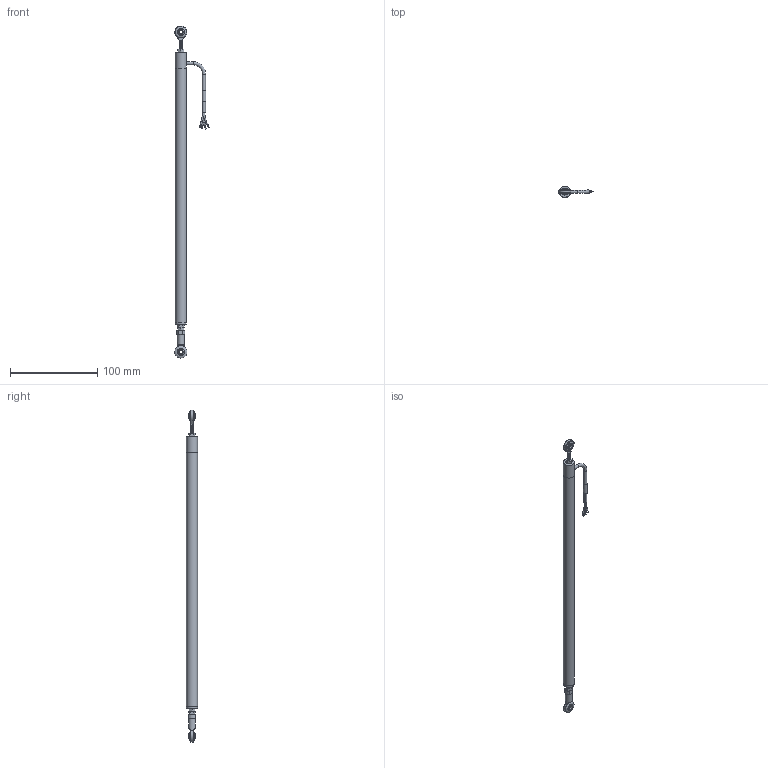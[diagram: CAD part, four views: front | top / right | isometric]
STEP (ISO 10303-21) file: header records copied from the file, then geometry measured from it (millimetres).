
FILE_DESCRIPTION(/* description */ (''),/* implementation_level */ '2;1');
FILE_NAME(/* name */ 'LPPS-12-250-R Assembly (wrapped).step',/* time_stamp */ '2023-10-10T14:08:17-04:00',/* author */ ('TSC_Grant'),/* organization */ (''),/* preprocessor_version */ 'ST-DEVELOPER v19.2',/* originating_system */ 'Autodesk Inventor 2024',/* authorisation */ '');
FILE_SCHEMA (('AUTOMOTIVE_DESIGN { 1 0 10303 214 3 1 1 }'));
Length unit declared in the file: inch
Products named in the file (4): LPPS-12-010-R Assembly (wrapped); LPPS-12-010-R Body (wrapped); LPPS-12-010-R Spoiler (wrapped); Wire
Assembly tree (3 placements, depth 2):
  LPPS-12-010-R Assembly (wrapped)
    LPPS-12-010-R Body (wrapped)
    LPPS-12-010-R Spoiler (wrapped)
    Wire
Bounding box: 39.48 x 12.7 x 380.7 mm (x, y, z)
Volume: 42459 mm3; surface area: 23597.4 mm2
Topology: 13 solids, 13 shells, 200 faces, 462 edges, 306 vertices
Faces by surface type: plane 94, cylinder 74, bspline 21, torus 7, sphere 4
Full cylindrical faces by diameter (mm): 1.016 x3, 1.27 x1, 1.524 x3, 1.651 x2, 3.632 x5, 3.937 x14, 4.14 x2, 4.191 x1, 4.445 x1, 6.604 x1, 8.001 x1, 12.7 x3
Entity records: 9549 total; most frequent: CARTESIAN_POINT 4680, ORIENTED_EDGE 924, DIRECTION 895, EDGE_CURVE 462, AXIS2_PLACEMENT_3D 345, VERTEX_POINT 306, EDGE_LOOP 228, LINE 205
